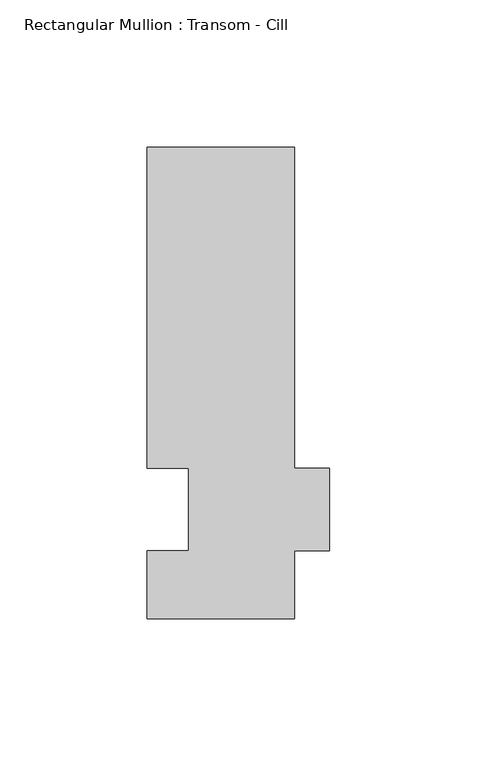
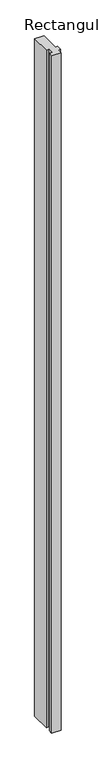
"""IFC4 building model written with IfcOpenShell, lengths in millimetres: member geometry, Rectangular Mullion : Transom - Cill."""

from ifc_helpers import new_model, si_unit, frame, origin, place, context, project, spatial, polyline, outline, extrude, source, transform, mapped, element, save


def rectangular_mullion_transom_cill_11a12331(model_context):
    return source(origin(), model_context, "Body", "SweptSolid", [
        extrude(outline(polyline([(-12.0, -14.0), (-12.0, -37.0307322), (-62.0, -37.0307322), (-62.0, -14.0), (-48.0, -14.0), (-48.0, 14.0), (-62.0, 14.0), (-62.0, 123.0), (-12.0, 123.0), (-12.0, 14.0), (0.0, 14.0), (0.0, -14.0), (-12.0, -14.0)])), frame((0.0, 0.0, -3876.038158), z_axis=(0.0, 0.0, 1.0), x_axis=(1.0, 0.0, 0.0)), (0.0, 0.0, 1.0), 3876.038158),
    ])


if __name__ == "__main__":
    model = new_model("IFC4")
    model_context = context("Model", 3, world=origin())
    ifc_project = project(units=[si_unit("LENGTHUNIT", "METRE", prefix="MILLI")], contexts=[model_context])
    site = spatial("IfcSite", under=ifc_project)
    building = spatial("IfcBuilding", under=site)
    placement = place(None, origin())
    rectangular_mullion_transom_cill_shape = rectangular_mullion_transom_cill_11a12331(model_context)
    element("IfcMember", 1, ObjectType="Rectangular Mullion : Transom - Cill", at=placement, inside=building, context=model_context, shape_type="MappedRepresentation", body=[
        mapped(rectangular_mullion_transom_cill_shape, transform((0.0, 0.0, 0.0), x_axis=(1.0, 0.0, 0.0), y_axis=(0.0, 1.0, 0.0), z_axis=(0.0, 0.0, 1.0))),
    ])
    save(model, "model.ifc")
